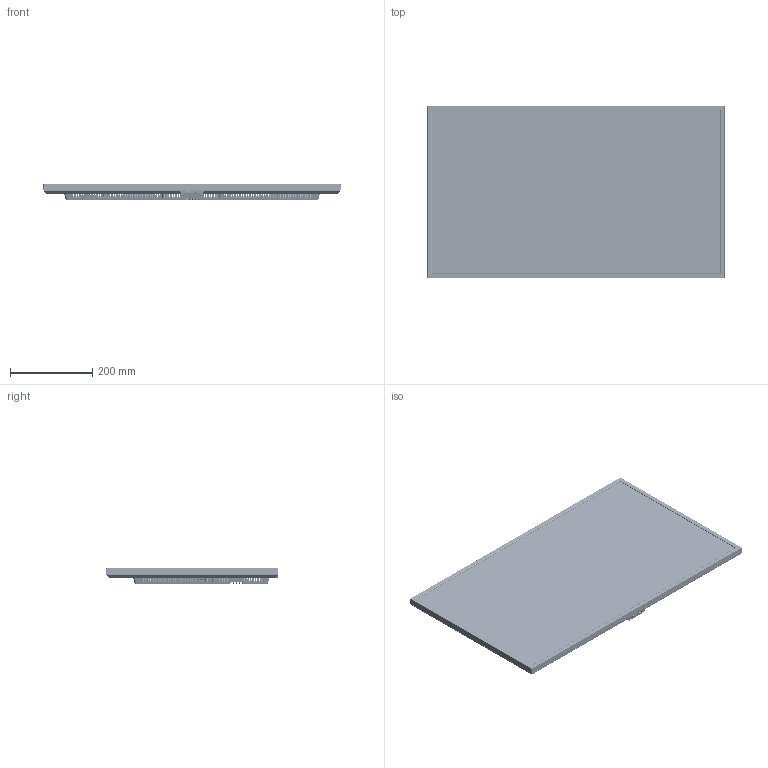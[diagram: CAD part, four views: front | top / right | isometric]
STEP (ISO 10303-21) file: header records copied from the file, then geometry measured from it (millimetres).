
FILE_DESCRIPTION((''),'2;1');
FILE_NAME('00-32DS60_ASM_1_ASM','2023-03-01T',('zhangzhpei'),(''),'CREO PARAMETRIC BY PTC INC, 2014350','CREO PARAMETRIC BY PTC INC, 2014350','');
FILE_SCHEMA(('CONFIG_CONTROL_DESIGN'));
Products named in the file (22): TFT-SG3151B05-COF_1; 02-32DS60-OC_ASM_1_ASM; 55-665630-0HQG_FC-M0927_1; 02-32DS60-FC_ASM_1_ASM; 01-32DS60-LCM_ASM_1_ASM; POWER-150X150_1; ST-A03-002G9A-T54-F04F08_1; ODM-POWER_ASM_1_ASM; PCB_BOARD_1; PCB_MAIN-HDMI-IAF05_19613T1-CGE; PCB_MAIN-USB20_A_HOR_SOCKET-BK_; PCB_MAIN-PHONE_J-TSH3724D3_5_4P; PCB_ASSY_ASM_1_ASM; AV_SUPPORT_YOUHUA_220721_1; 01-32DS60-SSB_ASM_1_ASM; 55-665640-0ULG_BC-230228; 01-32DS60-BC_ASM_1_ASM; IR_PCB_2_1; IR_SUPPORT_56-799800-0HAG_2_1; LENS_56-799810-0HHG_2_1; IR_ASSY_ASM_3_ASM_1_ASM; 00-32DS60_ASM_1_ASM
Assembly tree (24 placements, depth 4):
  00-32DS60_ASM_1_ASM
    01-32DS60-LCM_ASM_1_ASM
      02-32DS60-OC_ASM_1_ASM
        TFT-SG3151B05-COF_1
      02-32DS60-FC_ASM_1_ASM
        55-665630-0HQG_FC-M0927_1
    01-32DS60-SSB_ASM_1_ASM
      ODM-POWER_ASM_1_ASM
        POWER-150X150_1
        ST-A03-002G9A-T54-F04F08_1
      PCB_ASSY_ASM_1_ASM
        PCB_BOARD_1
        PCB_MAIN-HDMI-IAF05_19613T1-CGE  x3
        PCB_MAIN-USB20_A_HOR_SOCKET-BK_  x2
        PCB_MAIN-PHONE_J-TSH3724D3_5_4P
      AV_SUPPORT_YOUHUA_220721_1
    01-32DS60-BC_ASM_1_ASM
      55-665640-0ULG_BC-230228
    IR_ASSY_ASM_3_ASM_1_ASM
      IR_PCB_2_1
      IR_SUPPORT_56-799800-0HAG_2_1
      LENS_56-799810-0HHG_2_1
Bounding box: 724.56 x 419.81 x 40 mm (x, y, z)
Volume: 1253322.2 mm3; surface area: 2191847.4 mm2
Topology: 16 solids, 16 shells, 16324 faces, 46455 edges, 29831 vertices
Faces by surface type: plane 12732, cylinder 2863, bspline 371, torus 148, cone 122, extrusion 63, sphere 25
Entity records: 410790 total; most frequent: CARTESIAN_POINT 95456, ORIENTED_EDGE 69726, DIRECTION 59540, EDGE_CURVE 34863, VECTOR 28104, LINE 28041, VERTEX_POINT 22450, AXIS2_PLACEMENT_3D 15718
